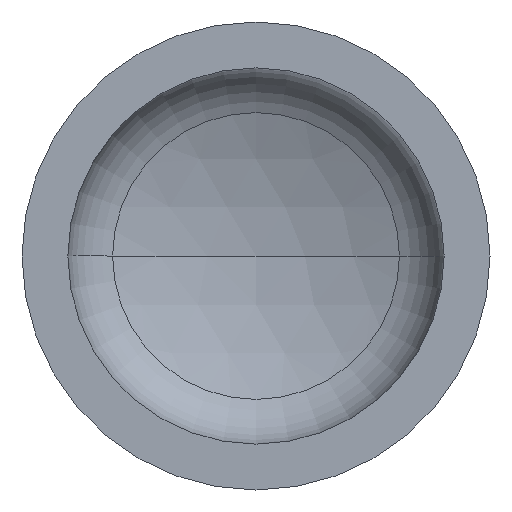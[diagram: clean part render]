
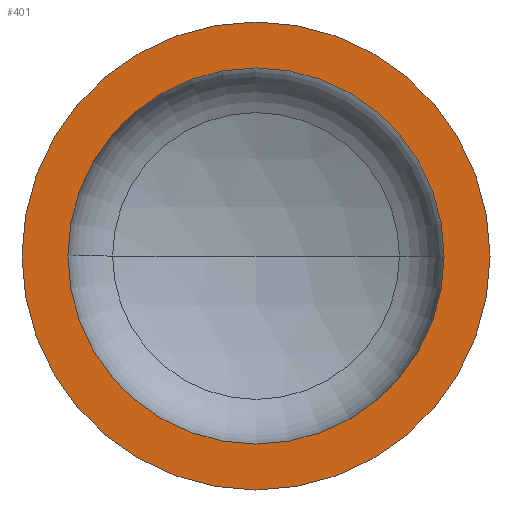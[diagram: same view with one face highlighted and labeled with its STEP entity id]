
A CAD part, front view. The second image highlights one B-rep face of the part: STEP entity #401.
In plain terms, the highlighted planar face has unit normal (0, -1, 0).
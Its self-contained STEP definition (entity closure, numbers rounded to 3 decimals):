
#4 = ORIENTED_EDGE ( 'NONE', *, *, #91, .F. ) ;
#11 = AXIS2_PLACEMENT_3D ( 'NONE', #376, #253, #399 ) ;
#40 = ORIENTED_EDGE ( 'NONE', *, *, #337, .F. ) ;
#61 = AXIS2_PLACEMENT_3D ( 'NONE', #388, #328, #129 ) ;
#63 = AXIS2_PLACEMENT_3D ( 'NONE', #321, #160, #246 ) ;
#72 = VERTEX_POINT ( 'NONE', #347 ) ;
#78 = AXIS2_PLACEMENT_3D ( 'NONE', #300, #130, #297 ) ;
#79 = EDGE_CURVE ( 'NONE', #72, #89, #277, .T. ) ;
#86 = VERTEX_POINT ( 'NONE', #132 ) ;
#87 = EDGE_CURVE ( 'NONE', #89, #72, #148, .T. ) ;
#89 = VERTEX_POINT ( 'NONE', #247 ) ;
#90 = ORIENTED_EDGE ( 'NONE', *, *, #79, .T. ) ;
#91 = EDGE_CURVE ( 'NONE', #86, #227, #331, .T. ) ;
#107 = EDGE_LOOP ( 'NONE', ( #4, #40 ) ) ;
#129 = DIRECTION ( 'NONE',  ( 1., 0., 0. ) ) ;
#130 = DIRECTION ( 'NONE',  ( 0., -1., 0. ) ) ;
#132 = CARTESIAN_POINT ( 'NONE',  ( 402., 0., 0. ) ) ;
#148 = CIRCLE ( 'NONE', #63, 500. ) ;
#160 = DIRECTION ( 'NONE',  ( 0., -1., 0. ) ) ;
#211 = FACE_BOUND ( 'NONE', #107, .T. ) ;
#225 = CIRCLE ( 'NONE', #11, 402. ) ;
#227 = VERTEX_POINT ( 'NONE', #258 ) ;
#246 = DIRECTION ( 'NONE',  ( 1., 0., 0. ) ) ;
#247 = CARTESIAN_POINT ( 'NONE',  ( -500., 0., 0. ) ) ;
#253 = DIRECTION ( 'NONE',  ( 0., -1., 0. ) ) ;
#258 = CARTESIAN_POINT ( 'NONE',  ( -402., 0., 0. ) ) ;
#264 = CARTESIAN_POINT ( 'NONE',  ( -500., 0., 0. ) ) ;
#277 = CIRCLE ( 'NONE', #78, 500. ) ;
#287 = PLANE ( 'NONE',  #354 ) ;
#290 = EDGE_LOOP ( 'NONE', ( #90, #406 ) ) ;
#297 = DIRECTION ( 'NONE',  ( 1., 0., 0. ) ) ;
#300 = CARTESIAN_POINT ( 'NONE',  ( 0., 0., 0. ) ) ;
#315 = FACE_OUTER_BOUND ( 'NONE', #290, .T. ) ;
#321 = CARTESIAN_POINT ( 'NONE',  ( 0., 0., 0. ) ) ;
#328 = DIRECTION ( 'NONE',  ( 0., -1., 0. ) ) ;
#331 = CIRCLE ( 'NONE', #61, 402. ) ;
#337 = EDGE_CURVE ( 'NONE', #227, #86, #225, .T. ) ;
#347 = CARTESIAN_POINT ( 'NONE',  ( 500., 0., 0. ) ) ;
#351 = DIRECTION ( 'NONE',  ( -1., 0., 0. ) ) ;
#354 = AXIS2_PLACEMENT_3D ( 'NONE', #264, #407, #351 ) ;
#376 = CARTESIAN_POINT ( 'NONE',  ( 0., 0., 0. ) ) ;
#388 = CARTESIAN_POINT ( 'NONE',  ( 0., 0., 0. ) ) ;
#399 = DIRECTION ( 'NONE',  ( 1., 0., 0. ) ) ;
#401 = ADVANCED_FACE ( 'NONE', ( #211, #315 ), #287, .F. ) ;
#406 = ORIENTED_EDGE ( 'NONE', *, *, #87, .T. ) ;
#407 = DIRECTION ( 'NONE',  ( 0., 1., 0. ) ) ;
